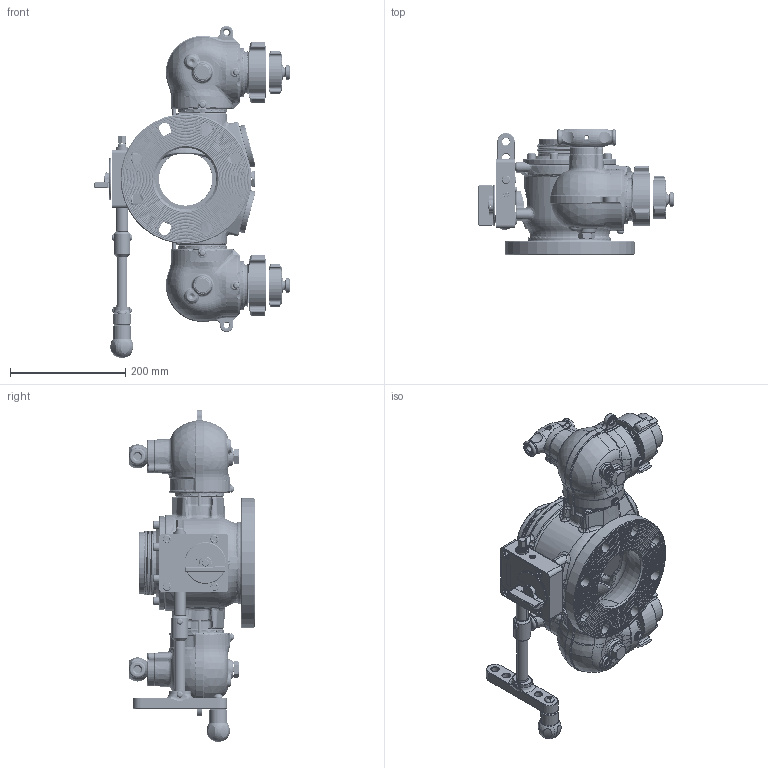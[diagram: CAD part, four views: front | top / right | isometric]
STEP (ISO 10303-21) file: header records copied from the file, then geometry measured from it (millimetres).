
FILE_DESCRIPTION (( 'STEP AP214' ), '1' );
FILE_NAME ('AKM.SLDASM_AKM112113D.step', '2014-09-16T14:41:42', ( '' ), ( '' ), 'SwSTEP 2.0', 'SolidWorks 2014', '' );
FILE_SCHEMA (( 'AUTOMOTIVE_DESIGN' ));
Length unit declared in the file: inch
Products named in the file (1): AKM.SLDASM_AKM112113D
Bounding box: 339.9 x 217.96 x 576.77 mm (x, y, z)
Surface area: 684757.7 mm2 (no closed solid volume)
Topology: 0 solids, 189 shells, 3400 faces, 13050 edges, 9460 vertices
Faces by surface type: plane 857, cylinder 741, torus 641, bspline 562, cone 561, sphere 38
Entity records: 228447 total; most frequent: CARTESIAN_POINT 86126, ORIENTED_EDGE 20071, DIRECTION 17732, EDGE_CURVE 12938, VERTEX_POINT 9456, AXIS2_PLACEMENT_3D 6432, VECTOR 4868, LINE 4868
